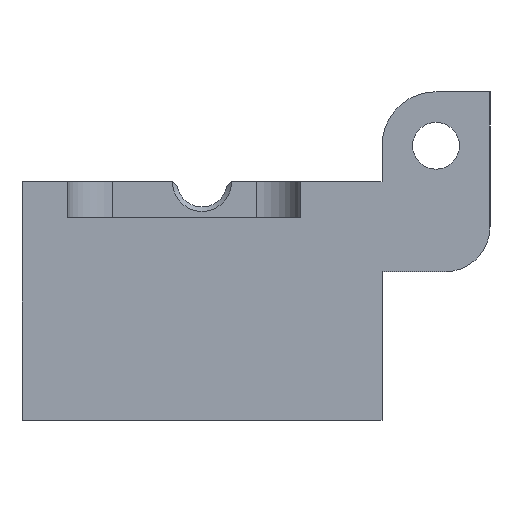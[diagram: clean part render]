
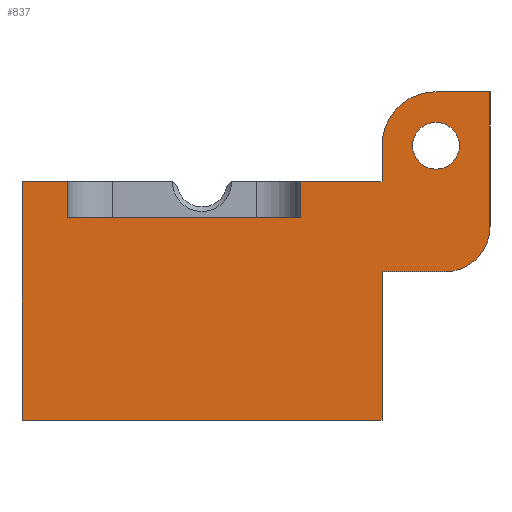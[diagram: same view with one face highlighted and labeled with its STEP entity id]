
A CAD part, left-side view. The second image highlights one B-rep face of the part: STEP entity #837.
In plain terms, the highlighted planar face has unit normal (-1, 0, 0).
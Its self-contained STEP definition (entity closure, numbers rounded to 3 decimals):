
#34 = AXIS2_PLACEMENT_3D ( 'NONE', #638, #1481, #939 ) ;
#44 = DIRECTION ( 'NONE',  ( 0., -1., 0. ) ) ;
#49 = DIRECTION ( 'NONE',  ( 0., -1., 0. ) ) ;
#69 = DIRECTION ( 'NONE',  ( -1., 0., 0. ) ) ;
#83 = EDGE_LOOP ( 'NONE', ( #1383, #2169, #1543, #1888, #427, #1513, #131, #1237, #1222, #563, #2128, #110, #1349, #1842 ) ) ;
#110 = ORIENTED_EDGE ( 'NONE', *, *, #1088, .T. ) ;
#119 = VERTEX_POINT ( 'NONE', #917 ) ;
#131 = ORIENTED_EDGE ( 'NONE', *, *, #1334, .T. ) ;
#152 = CARTESIAN_POINT ( 'NONE',  ( -20., -26., 1.4 ) ) ;
#175 = CARTESIAN_POINT ( 'NONE',  ( -20., -26., 4. ) ) ;
#176 = DIRECTION ( 'NONE',  ( 0., -1., 0. ) ) ;
#181 = DIRECTION ( 'NONE',  ( 0., 0., 1. ) ) ;
#182 = EDGE_CURVE ( 'NONE', #458, #1046, #882, .T. ) ;
#230 = VERTEX_POINT ( 'NONE', #850 ) ;
#262 = VERTEX_POINT ( 'NONE', #668 ) ;
#280 = CARTESIAN_POINT ( 'NONE',  ( -20., -20., 4. ) ) ;
#293 = CARTESIAN_POINT ( 'NONE',  ( -20., -11., 0. ) ) ;
#300 = EDGE_CURVE ( 'NONE', #119, #1991, #1574, .T. ) ;
#334 = CARTESIAN_POINT ( 'NONE',  ( -20., -11., -4. ) ) ;
#354 = AXIS2_PLACEMENT_3D ( 'NONE', #175, #1361, #1876 ) ;
#401 = CIRCLE ( 'NONE', #34, 2.6 ) ;
#405 = CARTESIAN_POINT ( 'NONE',  ( -20., -26., 10. ) ) ;
#409 = VECTOR ( 'NONE', #900, 1000. ) ;
#427 = ORIENTED_EDGE ( 'NONE', *, *, #1746, .F. ) ;
#433 = LINE ( 'NONE', #502, #1682 ) ;
#450 = CARTESIAN_POINT ( 'NONE',  ( -20., -32., 10. ) ) ;
#451 = EDGE_CURVE ( 'NONE', #1290, #1610, #1602, .T. ) ;
#458 = VERTEX_POINT ( 'NONE', #405 ) ;
#465 = VERTEX_POINT ( 'NONE', #748 ) ;
#498 = ORIENTED_EDGE ( 'NONE', *, *, #300, .T. ) ;
#502 = CARTESIAN_POINT ( 'NONE',  ( -20., 20., 0. ) ) ;
#533 = VECTOR ( 'NONE', #1826, 1000. ) ;
#546 = VECTOR ( 'NONE', #964, 1000. ) ;
#563 = ORIENTED_EDGE ( 'NONE', *, *, #873, .T. ) ;
#565 = CARTESIAN_POINT ( 'NONE',  ( -20., 20., -26.5 ) ) ;
#579 = AXIS2_PLACEMENT_3D ( 'NONE', #1556, #710, #1725 ) ;
#586 = LINE ( 'NONE', #1317, #533 ) ;
#588 = DIRECTION ( 'NONE',  ( 0., 0., 1. ) ) ;
#635 = CARTESIAN_POINT ( 'NONE',  ( -20., -20., -10. ) ) ;
#638 = CARTESIAN_POINT ( 'NONE',  ( -20., -26., 4. ) ) ;
#649 = VECTOR ( 'NONE', #588, 1000. ) ;
#659 = FACE_OUTER_BOUND ( 'NONE', #83, .T. ) ;
#668 = CARTESIAN_POINT ( 'NONE',  ( -20., -32., -5. ) ) ;
#705 = CARTESIAN_POINT ( 'NONE',  ( -20., -20., -26.5 ) ) ;
#710 = DIRECTION ( 'NONE',  ( 1., 0., 0. ) ) ;
#720 = EDGE_CURVE ( 'NONE', #896, #262, #1719, .T. ) ;
#742 = DIRECTION ( 'NONE',  ( 0., 0., 1. ) ) ;
#748 = CARTESIAN_POINT ( 'NONE',  ( -20., 20., 0. ) ) ;
#837 = ADVANCED_FACE ( 'NONE', ( #1005, #659 ), #2217, .T. ) ;
#850 = CARTESIAN_POINT ( 'NONE',  ( -20., -11., -4. ) ) ;
#852 = CARTESIAN_POINT ( 'NONE',  ( -20., 20., -26.5 ) ) ;
#860 = LINE ( 'NONE', #635, #409 ) ;
#873 = EDGE_CURVE ( 'NONE', #1488, #2106, #1002, .T. ) ;
#875 = CARTESIAN_POINT ( 'NONE',  ( -20., -20., -26.5 ) ) ;
#876 = VECTOR ( 'NONE', #44, 1000. ) ;
#882 = CIRCLE ( 'NONE', #354, 6. ) ;
#890 = LINE ( 'NONE', #565, #1294 ) ;
#896 = VERTEX_POINT ( 'NONE', #1230 ) ;
#900 = DIRECTION ( 'NONE',  ( 0., -1., 0. ) ) ;
#912 = VECTOR ( 'NONE', #2011, 1000. ) ;
#917 = CARTESIAN_POINT ( 'NONE',  ( -20., -26., 6.6 ) ) ;
#939 = DIRECTION ( 'NONE',  ( 0., 0., -1. ) ) ;
#964 = DIRECTION ( 'NONE',  ( 0., -1., 0. ) ) ;
#988 = CARTESIAN_POINT ( 'NONE',  ( -20., -20., 0. ) ) ;
#1002 = LINE ( 'NONE', #1812, #546 ) ;
#1005 = FACE_BOUND ( 'NONE', #1936, .T. ) ;
#1028 = VERTEX_POINT ( 'NONE', #1795 ) ;
#1036 = VERTEX_POINT ( 'NONE', #2194 ) ;
#1046 = VERTEX_POINT ( 'NONE', #280 ) ;
#1057 = AXIS2_PLACEMENT_3D ( 'NONE', #852, #69, #1431 ) ;
#1088 = EDGE_CURVE ( 'NONE', #1674, #896, #860, .T. ) ;
#1182 = LINE ( 'NONE', #450, #1714 ) ;
#1222 = ORIENTED_EDGE ( 'NONE', *, *, #1402, .F. ) ;
#1230 = CARTESIAN_POINT ( 'NONE',  ( -20., -27., -10. ) ) ;
#1237 = ORIENTED_EDGE ( 'NONE', *, *, #1755, .F. ) ;
#1251 = VECTOR ( 'NONE', #181, 1000. ) ;
#1284 = LINE ( 'NONE', #334, #1337 ) ;
#1290 = VERTEX_POINT ( 'NONE', #293 ) ;
#1294 = VECTOR ( 'NONE', #742, 1000. ) ;
#1299 = VECTOR ( 'NONE', #49, 1000. ) ;
#1317 = CARTESIAN_POINT ( 'NONE',  ( -20., 15., -4. ) ) ;
#1331 = LINE ( 'NONE', #1659, #876 ) ;
#1332 = VERTEX_POINT ( 'NONE', #1491 ) ;
#1334 = EDGE_CURVE ( 'NONE', #1332, #1036, #586, .T. ) ;
#1337 = VECTOR ( 'NONE', #1693, 1000. ) ;
#1349 = ORIENTED_EDGE ( 'NONE', *, *, #720, .T. ) ;
#1361 = DIRECTION ( 'NONE',  ( -1., 0., 0. ) ) ;
#1366 = LINE ( 'NONE', #1499, #912 ) ;
#1383 = ORIENTED_EDGE ( 'NONE', *, *, #1661, .T. ) ;
#1402 = EDGE_CURVE ( 'NONE', #1488, #465, #890, .T. ) ;
#1417 = CARTESIAN_POINT ( 'NONE',  ( -20., 20., 0. ) ) ;
#1428 = CARTESIAN_POINT ( 'NONE',  ( -20., 20., -26.5 ) ) ;
#1431 = DIRECTION ( 'NONE',  ( 0., -1., 0. ) ) ;
#1439 = LINE ( 'NONE', #1774, #649 ) ;
#1481 = DIRECTION ( 'NONE',  ( 1., 0., 0. ) ) ;
#1488 = VERTEX_POINT ( 'NONE', #1428 ) ;
#1491 = CARTESIAN_POINT ( 'NONE',  ( -20., 15., -4. ) ) ;
#1499 = CARTESIAN_POINT ( 'NONE',  ( -20., -20., 10. ) ) ;
#1513 = ORIENTED_EDGE ( 'NONE', *, *, #2110, .F. ) ;
#1543 = ORIENTED_EDGE ( 'NONE', *, *, #1579, .T. ) ;
#1556 = CARTESIAN_POINT ( 'NONE',  ( -20., -26., 4. ) ) ;
#1574 = CIRCLE ( 'NONE', #579, 2.6 ) ;
#1579 = EDGE_CURVE ( 'NONE', #1046, #1610, #1366, .T. ) ;
#1602 = LINE ( 'NONE', #1417, #1299 ) ;
#1610 = VERTEX_POINT ( 'NONE', #988 ) ;
#1659 = CARTESIAN_POINT ( 'NONE',  ( -20., 15., -4. ) ) ;
#1661 = EDGE_CURVE ( 'NONE', #1028, #458, #1182, .T. ) ;
#1674 = VERTEX_POINT ( 'NONE', #1791 ) ;
#1682 = VECTOR ( 'NONE', #2043, 1000. ) ;
#1693 = DIRECTION ( 'NONE',  ( 0., 0., 1. ) ) ;
#1714 = VECTOR ( 'NONE', #1989, 1000. ) ;
#1719 = CIRCLE ( 'NONE', #2152, 5. ) ;
#1725 = DIRECTION ( 'NONE',  ( 0., 0., -1. ) ) ;
#1746 = EDGE_CURVE ( 'NONE', #230, #1290, #1284, .T. ) ;
#1755 = EDGE_CURVE ( 'NONE', #465, #1036, #433, .T. ) ;
#1774 = CARTESIAN_POINT ( 'NONE',  ( -20., -32., -10. ) ) ;
#1791 = CARTESIAN_POINT ( 'NONE',  ( -20., -20., -10. ) ) ;
#1795 = CARTESIAN_POINT ( 'NONE',  ( -20., -32., 10. ) ) ;
#1812 = CARTESIAN_POINT ( 'NONE',  ( -20., 20., -26.5 ) ) ;
#1826 = DIRECTION ( 'NONE',  ( 0., 0., 1. ) ) ;
#1842 = ORIENTED_EDGE ( 'NONE', *, *, #2044, .T. ) ;
#1874 = ORIENTED_EDGE ( 'NONE', *, *, #1935, .T. ) ;
#1876 = DIRECTION ( 'NONE',  ( 0., -1., 0. ) ) ;
#1888 = ORIENTED_EDGE ( 'NONE', *, *, #451, .F. ) ;
#1907 = EDGE_CURVE ( 'NONE', #2106, #1674, #2171, .T. ) ;
#1935 = EDGE_CURVE ( 'NONE', #1991, #119, #401, .T. ) ;
#1936 = EDGE_LOOP ( 'NONE', ( #1874, #498 ) ) ;
#1989 = DIRECTION ( 'NONE',  ( 0., 1., 0. ) ) ;
#1991 = VERTEX_POINT ( 'NONE', #152 ) ;
#2011 = DIRECTION ( 'NONE',  ( 0., 0., -1. ) ) ;
#2043 = DIRECTION ( 'NONE',  ( 0., -1., 0. ) ) ;
#2044 = EDGE_CURVE ( 'NONE', #262, #1028, #1439, .T. ) ;
#2066 = CARTESIAN_POINT ( 'NONE',  ( -20., -27., -5. ) ) ;
#2072 = DIRECTION ( 'NONE',  ( -1., 0., 0. ) ) ;
#2106 = VERTEX_POINT ( 'NONE', #875 ) ;
#2110 = EDGE_CURVE ( 'NONE', #1332, #230, #1331, .T. ) ;
#2128 = ORIENTED_EDGE ( 'NONE', *, *, #1907, .T. ) ;
#2152 = AXIS2_PLACEMENT_3D ( 'NONE', #2066, #2072, #176 ) ;
#2169 = ORIENTED_EDGE ( 'NONE', *, *, #182, .T. ) ;
#2171 = LINE ( 'NONE', #705, #1251 ) ;
#2194 = CARTESIAN_POINT ( 'NONE',  ( -20., 15., 0. ) ) ;
#2217 = PLANE ( 'NONE',  #1057 ) ;
